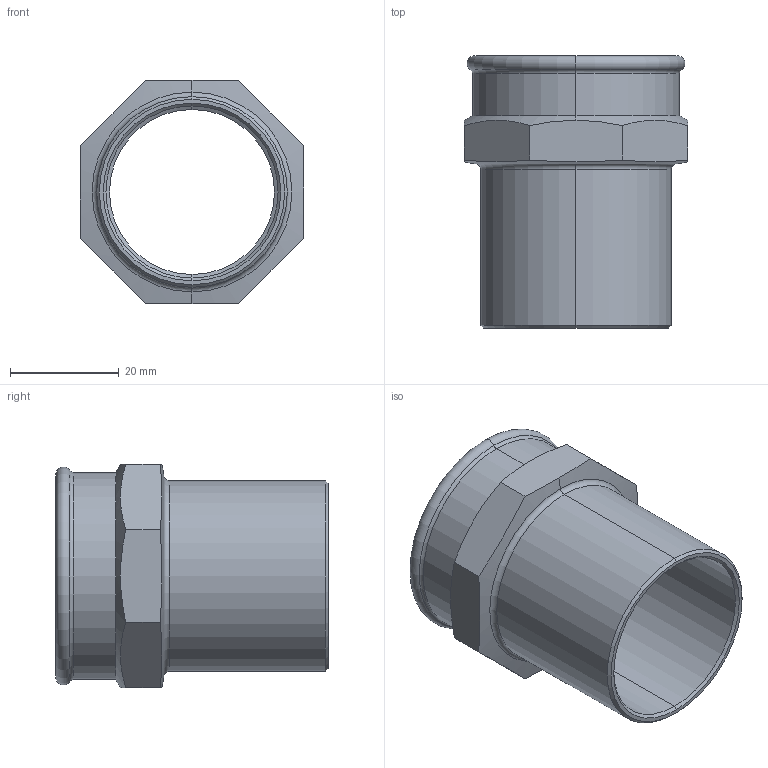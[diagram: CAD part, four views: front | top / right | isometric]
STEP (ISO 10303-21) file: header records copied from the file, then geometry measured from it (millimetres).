
FILE_DESCRIPTION (( 'STEP AP203' ), '1' );
FILE_NAME ('SP4281G Ø35 1.STEP', '2017-04-26T09:18:00', ( '' ), ( '' ), 'SwSTEP 2.0', 'SolidWorks 2016', '' );
FILE_SCHEMA (( 'CONFIG_CONTROL_DESIGN' ));
Length unit declared in the file: millimetre
Products named in the file (1): SP4281G ﾘ35 1
Bounding box: 41 x 50 x 41 mm (x, y, z)
Volume: 15612.3 mm3; surface area: 11749 mm2
Topology: 1 solids, 1 shells, 36 faces, 82 edges, 48 vertices
Faces by surface type: cone 12, plane 10, cylinder 8, torus 6
Entity records: 1177 total; most frequent: CARTESIAN_POINT 303, DIRECTION 170, ORIENTED_EDGE 164, EDGE_CURVE 82, AXIS2_PLACEMENT_3D 71, VERTEX_POINT 48, EDGE_LOOP 38, ADVANCED_FACE 36
